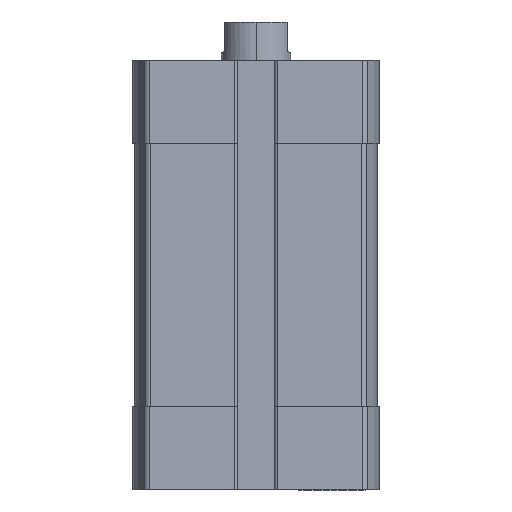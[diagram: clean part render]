
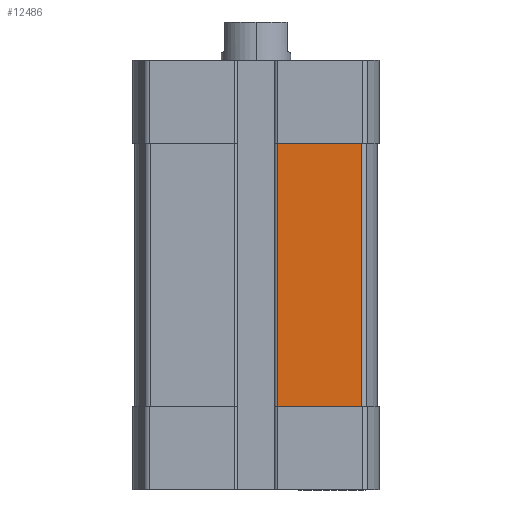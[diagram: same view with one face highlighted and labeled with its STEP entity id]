
A CAD part, left-side view. The second image highlights one B-rep face of the part: STEP entity #12486.
In plain terms, the highlighted planar face has unit normal (-1, 0, 0).
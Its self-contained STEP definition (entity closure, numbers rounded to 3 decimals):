
#1085 = VECTOR ( 'NONE', #12400, 1000. ) ;
#1673 = CARTESIAN_POINT ( 'NONE',  ( -17.5, -3.1, -50. ) ) ;
#2010 = DIRECTION ( 'NONE',  ( -1., 0., 0. ) ) ;
#2069 = VERTEX_POINT ( 'NONE', #9851 ) ;
#2193 = ORIENTED_EDGE ( 'NONE', *, *, #7398, .T. ) ;
#2754 = VECTOR ( 'NONE', #12205, 1000. ) ;
#3660 = VECTOR ( 'NONE', #8438, 1000. ) ;
#3824 = LINE ( 'NONE', #10379, #1085 ) ;
#3994 = LINE ( 'NONE', #7418, #3660 ) ;
#4128 = EDGE_CURVE ( 'NONE', #6082, #2069, #3824, .T. ) ;
#4617 = FACE_OUTER_BOUND ( 'NONE', #10688, .T. ) ;
#4858 = DIRECTION ( 'NONE',  ( 0., 0., 1. ) ) ;
#5147 = CARTESIAN_POINT ( 'NONE',  ( -17.5, -15.253, -50. ) ) ;
#5575 = ORIENTED_EDGE ( 'NONE', *, *, #12097, .T. ) ;
#5878 = AXIS2_PLACEMENT_3D ( 'NONE', #8113, #2010, #9135 ) ;
#6082 = VERTEX_POINT ( 'NONE', #1673 ) ;
#7398 = EDGE_CURVE ( 'NONE', #2069, #12376, #12896, .T. ) ;
#7418 = CARTESIAN_POINT ( 'NONE',  ( -17.5, 0., -12. ) ) ;
#7875 = CARTESIAN_POINT ( 'NONE',  ( -17.5, -15.253, -12. ) ) ;
#8113 = CARTESIAN_POINT ( 'NONE',  ( -17.5, -3.1, -50. ) ) ;
#8438 = DIRECTION ( 'NONE',  ( 0., 1., 0. ) ) ;
#8724 = VECTOR ( 'NONE', #4858, 1000. ) ;
#8825 = VERTEX_POINT ( 'NONE', #12986 ) ;
#8856 = CARTESIAN_POINT ( 'NONE',  ( -17.5, -3.1, -50. ) ) ;
#9135 = DIRECTION ( 'NONE',  ( 0., 0., 1. ) ) ;
#9317 = EDGE_CURVE ( 'NONE', #6082, #8825, #11413, .T. ) ;
#9763 = ORIENTED_EDGE ( 'NONE', *, *, #4128, .T. ) ;
#9851 = CARTESIAN_POINT ( 'NONE',  ( -17.5, -15.253, -50. ) ) ;
#10379 = CARTESIAN_POINT ( 'NONE',  ( -17.5, -3.1, -50. ) ) ;
#10688 = EDGE_LOOP ( 'NONE', ( #9763, #2193, #5575, #12469 ) ) ;
#11125 = PLANE ( 'NONE',  #5878 ) ;
#11413 = LINE ( 'NONE', #8856, #8724 ) ;
#12097 = EDGE_CURVE ( 'NONE', #12376, #8825, #3994, .T. ) ;
#12205 = DIRECTION ( 'NONE',  ( 0., 0., 1. ) ) ;
#12376 = VERTEX_POINT ( 'NONE', #7875 ) ;
#12400 = DIRECTION ( 'NONE',  ( 0., -1., 0. ) ) ;
#12469 = ORIENTED_EDGE ( 'NONE', *, *, #9317, .F. ) ;
#12486 = ADVANCED_FACE ( 'NONE', ( #4617 ), #11125, .T. ) ;
#12896 = LINE ( 'NONE', #5147, #2754 ) ;
#12986 = CARTESIAN_POINT ( 'NONE',  ( -17.5, -3.1, -12. ) ) ;
